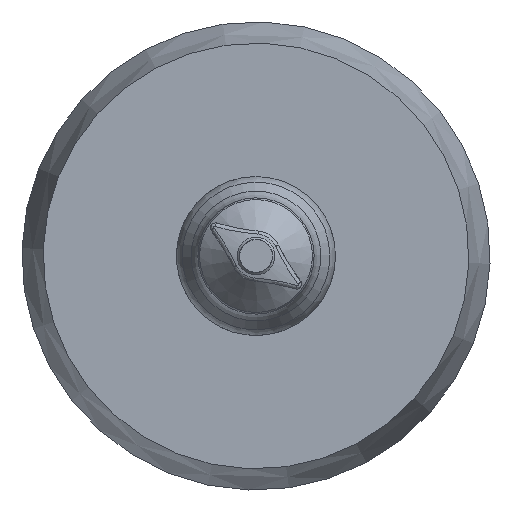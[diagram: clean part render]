
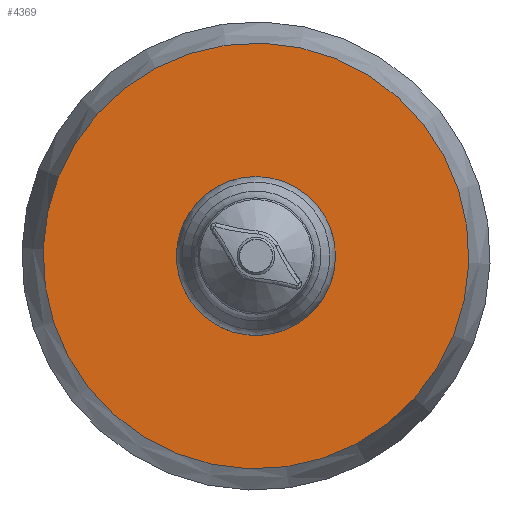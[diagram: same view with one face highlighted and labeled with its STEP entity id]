
A CAD part, left-side view. The second image highlights one B-rep face of the part: STEP entity #4369.
In plain terms, the highlighted planar face has unit normal (-1, 0, 0).
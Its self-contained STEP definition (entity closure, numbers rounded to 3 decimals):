
#678=ORIENTED_EDGE('',*,*,#1569,.T.);
#679=ORIENTED_EDGE('',*,*,#1568,.F.);
#1568=EDGE_CURVE('',#2014,#2014,#2317,.F.);
#1569=EDGE_CURVE('',#2015,#2015,#2318,.F.);
#2014=VERTEX_POINT('',#5345);
#2015=VERTEX_POINT('',#5348);
#2317=CIRCLE('',#4577,25.46);
#2318=CIRCLE('',#4579,9.5);
#2413=EDGE_LOOP('',(#678));
#2414=EDGE_LOOP('',(#679));
#2670=FACE_BOUND('',#2413,.T.);
#2671=FACE_BOUND('',#2414,.T.);
#2924=PLANE('',#4578);
#4369=ADVANCED_FACE('',(#2670,#2671),#2924,.T.);
#4577=AXIS2_PLACEMENT_3D('',#5344,#4792,#4793);
#4578=AXIS2_PLACEMENT_3D('',#5346,#4794,#4795);
#4579=AXIS2_PLACEMENT_3D('',#5347,#4796,#4797);
#4792=DIRECTION('',(-1.,0.,0.));
#4793=DIRECTION('',(0.,-0.744,-0.668));
#4794=DIRECTION('',(-1.,0.,0.));
#4795=DIRECTION('',(0.,-0.744,-0.668));
#4796=DIRECTION('',(-1.,0.,0.));
#4797=DIRECTION('',(0.,0.,1.));
#5344=CARTESIAN_POINT('',(165.109,0.,0.));
#5345=CARTESIAN_POINT('',(165.109,-18.95,-17.004));
#5346=CARTESIAN_POINT('',(165.109,0.,0.));
#5347=CARTESIAN_POINT('',(165.109,0.,0.));
#5348=CARTESIAN_POINT('',(165.109,0.,9.5));
